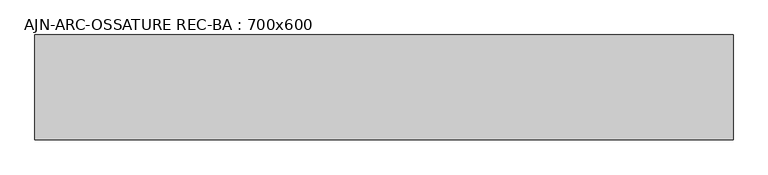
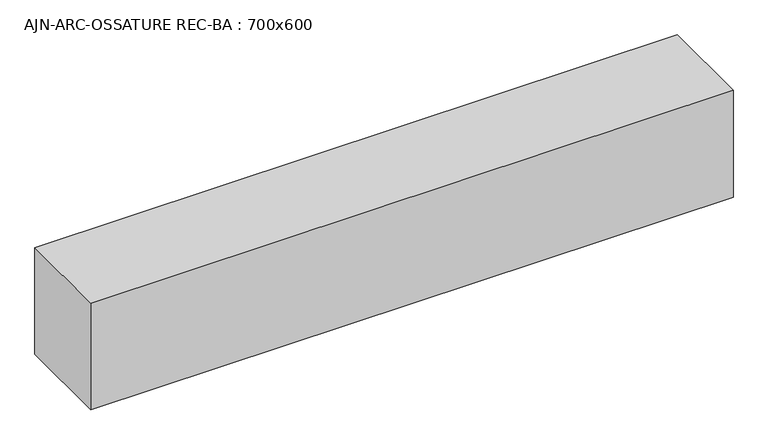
"""IFC4 building model written with IfcOpenShell, lengths in millimetres: beam geometry, AJN-ARC-OSSATURE REC-BA : 700x600."""

from ifc_helpers import new_model, si_unit, frame, origin, place, context, project, spatial, polyline, outline, extrude, source, transform, mapped, element, save


def ajn_arc_ossature_rec_ba_700x600_1618760c(model_context):
    return source(origin(), model_context, "Body", "SweptSolid", [
        extrude(outline(polyline([(1687.3, 300.0), (1687.3, -300.0), (-2300.0, -300.0), (-2300.0, 300.0), (1687.3, 300.0)])), frame((0.0, 0.0, -350.0), z_axis=(0.0, 0.0, 1.0), x_axis=(1.0, 0.0, 0.0)), (0.0, 0.0, 1.0), 700.0),
    ])


if __name__ == "__main__":
    model = new_model("IFC4")
    model_context = context("Model", 3, world=origin())
    ifc_project = project(units=[si_unit("LENGTHUNIT", "METRE", prefix="MILLI")], contexts=[model_context])
    site = spatial("IfcSite", under=ifc_project)
    building = spatial("IfcBuilding", under=site)
    placement = place(None, origin())
    ajn_arc_ossature_rec_ba_700x600_shape = ajn_arc_ossature_rec_ba_700x600_1618760c(model_context)
    element("IfcBeam", 1, ObjectType="AJN-ARC-OSSATURE REC-BA : 700x600", at=placement, inside=building, context=model_context, shape_type="MappedRepresentation", body=[
        mapped(ajn_arc_ossature_rec_ba_700x600_shape, transform((0.0, 0.0, 0.0), x_axis=(1.0, 0.0, 0.0), y_axis=(0.0, 1.0, 0.0), z_axis=(0.0, 0.0, 1.0))),
    ])
    save(model, "model.ifc")
